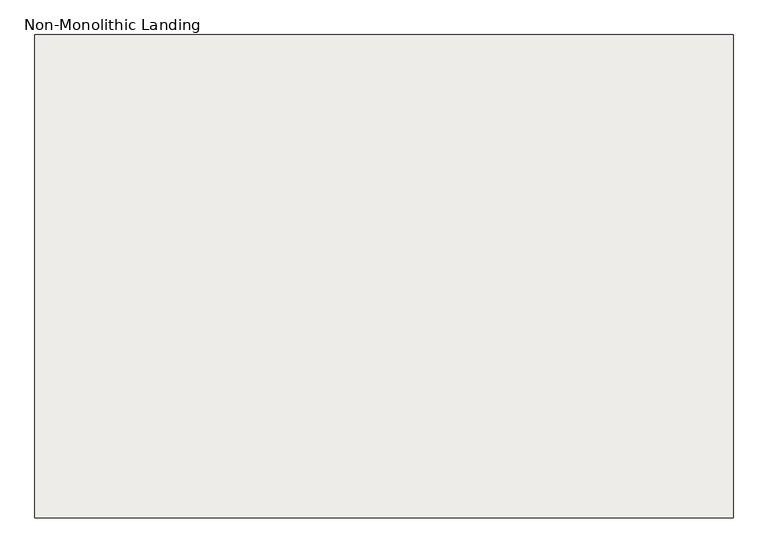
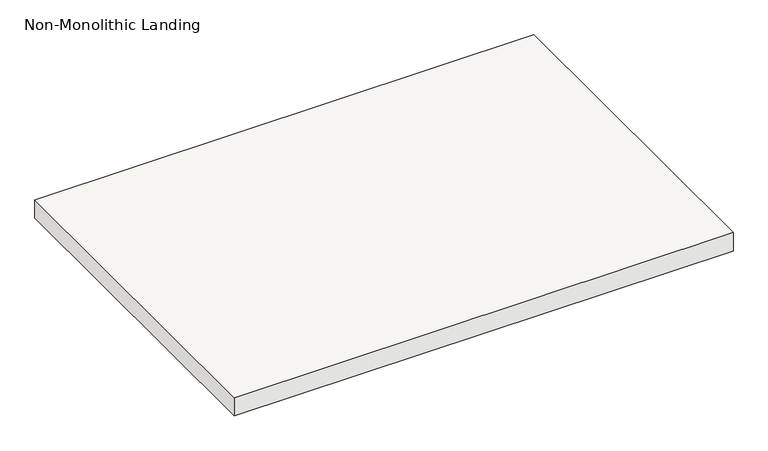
"""IFC4 building model written with IfcOpenShell, lengths in millimetres: slab geometry, Non-Monolithic Landing."""

from ifc_helpers import new_model, si_unit, frame, origin, place, context, project, spatial, polyline, outline, extrude, source, transform, mapped, element, save


def non_monolithic_landing_5e89c606(model_context):
    return source(origin(), model_context, "Body", "SweptSolid", [
        extrude(outline(polyline([(161288.2028142, 33246.6812523), (162609.0028142, 33246.6812523), (162609.0028142, 32332.2812523), (161288.2028142, 32332.2812523), (161288.2028142, 33246.6812523)])), frame((0.0, 0.0, 2126.3428571), z_axis=(0.0, 0.0, 1.0), x_axis=(1.0, 0.0, 0.0)), (0.0, 0.0, 1.0), 50.8),
    ])


if __name__ == "__main__":
    model = new_model("IFC4")
    model_context = context("Model", 3, world=origin())
    ifc_project = project(units=[si_unit("LENGTHUNIT", "METRE", prefix="MILLI")], contexts=[model_context])
    site = spatial("IfcSite", under=ifc_project)
    building = spatial("IfcBuilding", under=site)
    placement = place(None, origin())
    non_monolithic_landing_shape = non_monolithic_landing_5e89c606(model_context)
    element("IfcSlab", 1, ObjectType="Non-Monolithic Landing", at=placement, inside=building, context=model_context, shape_type="MappedRepresentation", body=[
        mapped(non_monolithic_landing_shape, transform((0.0, 0.0, 0.0), x_axis=(1.0, 0.0, 0.0), y_axis=(0.0, 1.0, 0.0), z_axis=(0.0, 0.0, 1.0))),
    ])
    save(model, "model.ifc")
